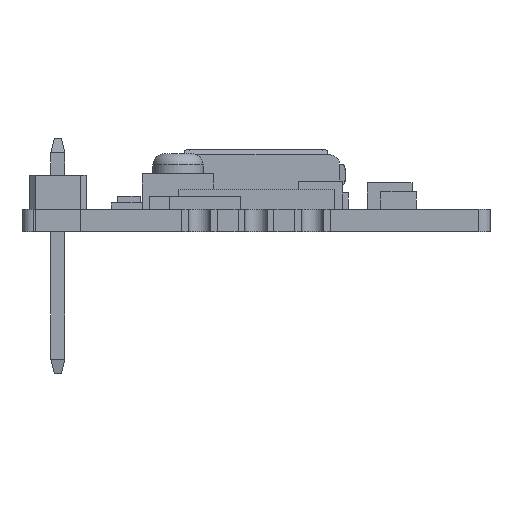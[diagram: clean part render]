
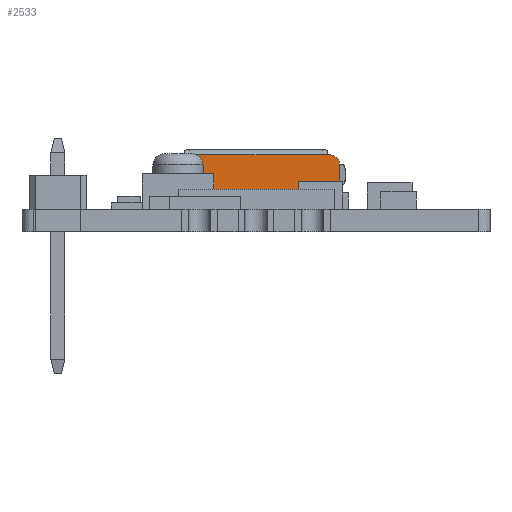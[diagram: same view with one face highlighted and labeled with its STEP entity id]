
A CAD part, front view. The second image highlights one B-rep face of the part: STEP entity #2533.
In plain terms, the highlighted planar face has unit normal (0, -1, 0).
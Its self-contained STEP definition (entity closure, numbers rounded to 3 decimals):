
#13=DIRECTION('',(0.,0.,1.));
#14=DIRECTION('',(1.,0.,-0.));
#44=VECTOR('',#13,1.);
#51=DIRECTION('',(0.,1.,0.));
#70=VECTOR('',#14,1.);
#224=DIRECTION('',(0.,-1.,0.));
#286=DIRECTION('',(0.,0.,-1.));
#790=VERTEX_POINT('',#791);
#791=CARTESIAN_POINT('',(2.661,21.2,1.));
#794=ORIENTED_EDGE('',*,*,#795,.F.);
#795=EDGE_CURVE('',#796,#790,#798,.T.);
#796=VERTEX_POINT('',#797);
#797=CARTESIAN_POINT('',(-2.661,21.2,1.));
#798=LINE('',#799,#70);
#799=CARTESIAN_POINT('',(-2.837,21.2,1.));
#2521=VERTEX_POINT('',#2522);
#2522=CARTESIAN_POINT('',(-2.961,21.2,1.124));
#2525=EDGE_CURVE('',#796,#2521,#2526,.T.);
#2526=CIRCLE('',#2527,0.425);
#2527=AXIS2_PLACEMENT_3D('',#2528,#51,#286);
#2528=CARTESIAN_POINT('',(-2.661,21.2,1.425));
#2533=ADVANCED_FACE('',(#2534),#2604,.F.);
#2534=FACE_BOUND('',#2535,.F.);
#2535=EDGE_LOOP('',(#794,#2536,#2537,#2544,#2551,#2557,#2564,#2570,#2577,#2584,#2591,#2599));
#2536=ORIENTED_EDGE('',*,*,#2525,.T.);
#2537=ORIENTED_EDGE('',*,*,#2538,.T.);
#2538=EDGE_CURVE('',#2521,#2539,#2541,.T.);
#2539=VERTEX_POINT('',#2540);
#2540=CARTESIAN_POINT('',(-3.626,21.2,1.789));
#2541=LINE('',#799,#2542);
#2542=VECTOR('',#2543,1.);
#2543=DIRECTION('',(-0.707,0.,0.707));
#2544=ORIENTED_EDGE('',*,*,#2545,.F.);
#2545=EDGE_CURVE('',#2546,#2539,#2548,.T.);
#2546=VERTEX_POINT('',#2547);
#2547=CARTESIAN_POINT('',(-3.75,21.2,2.089));
#2548=CIRCLE('',#2549,0.425);
#2549=AXIS2_PLACEMENT_3D('',#2550,#224,#286);
#2550=CARTESIAN_POINT('',(-3.325,21.2,2.089));
#2551=ORIENTED_EDGE('',*,*,#2552,.T.);
#2552=EDGE_CURVE('',#2546,#2553,#2555,.T.);
#2553=VERTEX_POINT('',#2554);
#2554=CARTESIAN_POINT('',(-3.75,21.2,3.025));
#2555=LINE('',#2556,#44);
#2556=CARTESIAN_POINT('',(-3.75,21.2,1.913));
#2557=ORIENTED_EDGE('',*,*,#2558,.F.);
#2558=EDGE_CURVE('',#2559,#2553,#2561,.T.);
#2559=VERTEX_POINT('',#2560);
#2560=CARTESIAN_POINT('',(-3.325,21.2,3.45));
#2561=CIRCLE('',#2562,0.425);
#2562=AXIS2_PLACEMENT_3D('',#2563,#224,#286);
#2563=CARTESIAN_POINT('',(-3.325,21.2,3.025));
#2564=ORIENTED_EDGE('',*,*,#2565,.T.);
#2565=EDGE_CURVE('',#2559,#2566,#2568,.T.);
#2566=VERTEX_POINT('',#2567);
#2567=CARTESIAN_POINT('',(3.325,21.2,3.45));
#2568=LINE('',#2569,#70);
#2569=CARTESIAN_POINT('',(-3.75,21.2,3.45));
#2570=ORIENTED_EDGE('',*,*,#2571,.F.);
#2571=EDGE_CURVE('',#2572,#2566,#2574,.T.);
#2572=VERTEX_POINT('',#2573);
#2573=CARTESIAN_POINT('',(3.75,21.2,3.025));
#2574=CIRCLE('',#2575,0.425);
#2575=AXIS2_PLACEMENT_3D('',#2576,#224,#286);
#2576=CARTESIAN_POINT('',(3.325,21.2,3.025));
#2577=ORIENTED_EDGE('',*,*,#2578,.T.);
#2578=EDGE_CURVE('',#2572,#2579,#2581,.T.);
#2579=VERTEX_POINT('',#2580);
#2580=CARTESIAN_POINT('',(3.75,21.2,2.089));
#2581=LINE('',#2582,#2583);
#2582=CARTESIAN_POINT('',(3.75,21.2,3.45));
#2583=VECTOR('',#286,1.);
#2584=ORIENTED_EDGE('',*,*,#2585,.F.);
#2585=EDGE_CURVE('',#2586,#2579,#2588,.T.);
#2586=VERTEX_POINT('',#2587);
#2587=CARTESIAN_POINT('',(3.626,21.2,1.789));
#2588=CIRCLE('',#2589,0.425);
#2589=AXIS2_PLACEMENT_3D('',#2590,#224,#286);
#2590=CARTESIAN_POINT('',(3.325,21.2,2.089));
#2591=ORIENTED_EDGE('',*,*,#2592,.T.);
#2592=EDGE_CURVE('',#2586,#2593,#2595,.T.);
#2593=VERTEX_POINT('',#2594);
#2594=CARTESIAN_POINT('',(2.961,21.2,1.124));
#2595=LINE('',#2596,#2597);
#2596=CARTESIAN_POINT('',(3.75,21.2,1.913));
#2597=VECTOR('',#2598,1.);
#2598=DIRECTION('',(-0.707,-0.,-0.707));
#2599=ORIENTED_EDGE('',*,*,#2600,.F.);
#2600=EDGE_CURVE('',#790,#2593,#2601,.T.);
#2601=CIRCLE('',#2602,0.425);
#2602=AXIS2_PLACEMENT_3D('',#2603,#224,#286);
#2603=CARTESIAN_POINT('',(2.661,21.2,1.425));
#2604=PLANE('',#2605);
#2605=AXIS2_PLACEMENT_3D('',#2606,#51,#13);
#2606=CARTESIAN_POINT('',(0.,21.2,2.313));
